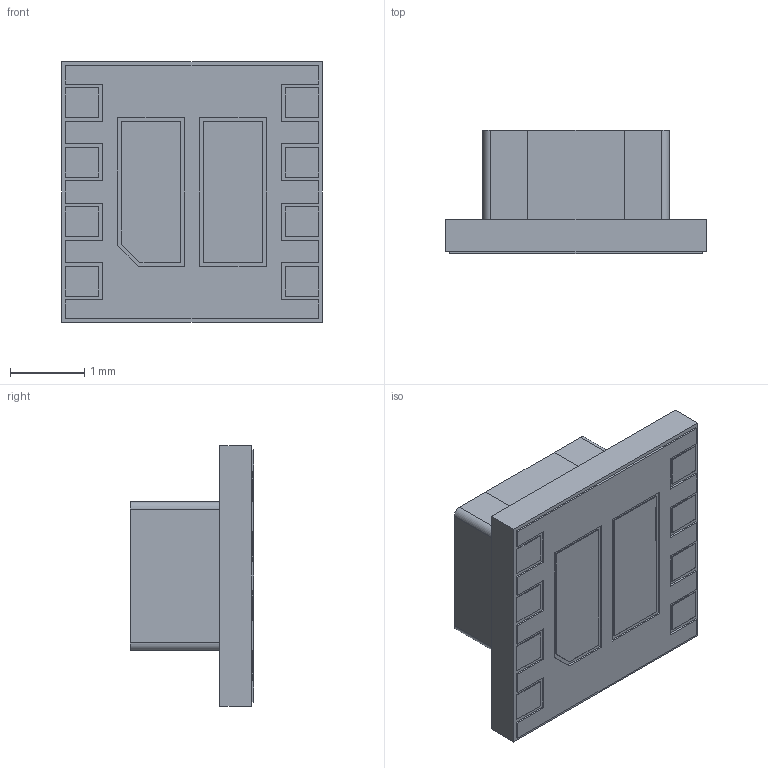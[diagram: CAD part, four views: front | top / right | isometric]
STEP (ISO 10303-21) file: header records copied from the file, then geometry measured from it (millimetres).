
FILE_DESCRIPTION((''),'2;1');
FILE_NAME('SIL0008E_ASM','2014-06-05T',('a0412025'),(''),'PRO/ENGINEER BY PARAMETRIC TECHNOLOGY CORPORATION, 2011490','PRO/ENGINEER BY PARAMETRIC TECHNOLOGY CORPORATION, 2011490','');
FILE_SCHEMA(('AUTOMOTIVE_DESIGN_CC2 { 1 2 10303 214 -1 1 5 2 }'));
Length unit declared in the file: millimetre
Products named in the file (7): SOLDERMASK-SIL0008E; METAL-SIL0008E; SUBSTRATE-SIP; INDUCTOR-BODY-MLV; INDUCTOR-TERMNL-MLV; INDUCTOR-MLV-YT12_ASM; SIL0008E_ASM
Assembly tree (7 placements, depth 3):
  SIL0008E_ASM
    SOLDERMASK-SIL0008E
    METAL-SIL0008E
    SUBSTRATE-SIP
    INDUCTOR-MLV-YT12_ASM
      INDUCTOR-BODY-MLV
      INDUCTOR-TERMNL-MLV  x2
Bounding box: 3.5 x 1.66 x 3.5 mm (x, y, z)
Volume: 11.5 mm3; surface area: 82.7 mm2
Topology: 15 solids, 15 shells, 136 faces, 318 edges, 212 vertices
Faces by surface type: plane 132, cylinder 4
Entity records: 4778 total; most frequent: CARTESIAN_POINT 645, ORIENTED_EDGE 600, DIRECTION 594, PRESENTATION_STYLE_ASSIGNMENT 314, STYLED_ITEM 314, CURVE_STYLE 300, EDGE_CURVE 300, VECTOR 296
